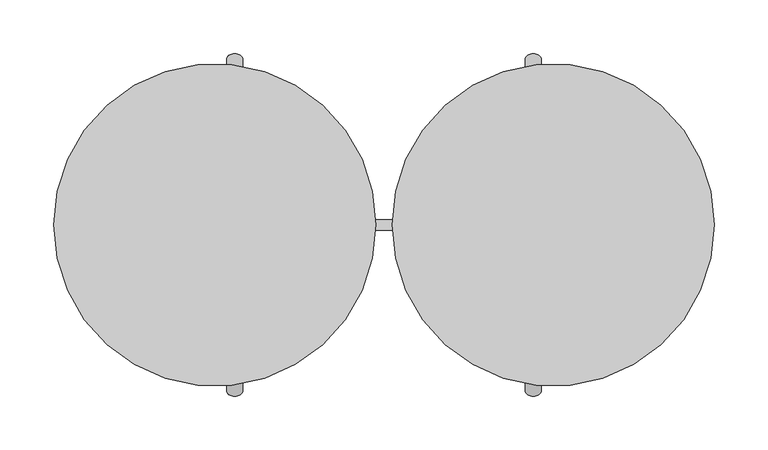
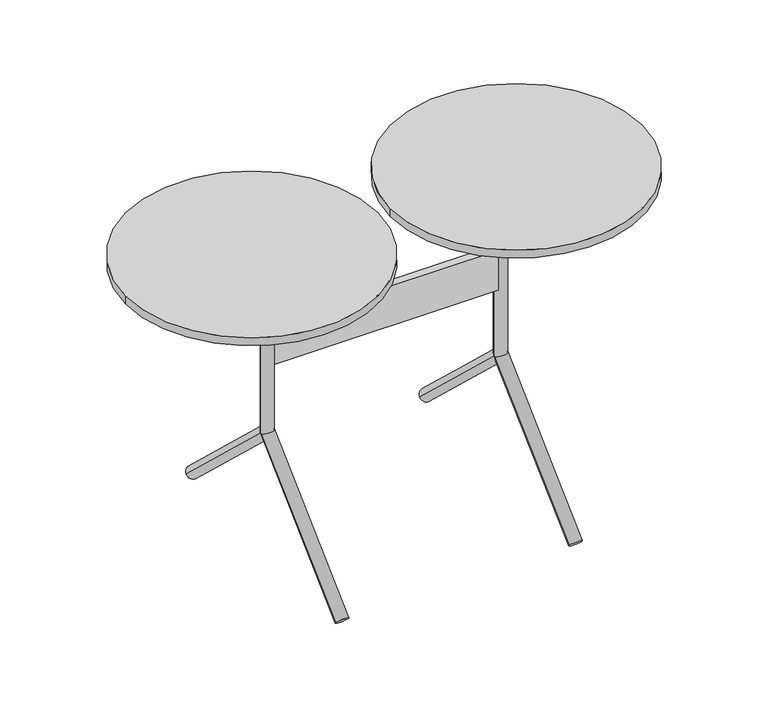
"""IFC4 building model written with IfcOpenShell, lengths in millimetres: furniture geometry, Hjelle - Twin : Hjelle - Twin."""

from ifc_helpers import new_model, si_unit, point, frame, frame_2d, origin, place, context, project, spatial, circle_curve, trimmed, segment, composite_curve, outline, extrude, source, transform, mapped, element, save
from ifc_brep_helpers import plane_surface, cylinder_surface, advanced_brep


def furniture_08e49e87(model_context):
    return source(origin(), model_context, "Body", "SolidModel", [
        advanced_brep(
        [(-146.4999968, 0.0, 369.0000057), (-131.4998949, 0.0, 369.0000057), (-146.4999968, 0.0, 150.0167739), (-131.4998949, 0.0, 150.0167739), (-131.4998949, 0.0, 235.0000091), (-133.4094346, -4.9996948, 235.0000091), (-133.4094346, -4.9996948, 284.9999913), (-131.4998949, 0.0, 284.9999913), (-133.4094346, 4.9996948, 284.9999913), (-133.4094346, 4.9996948, 235.0000091), (133.4094346, -4.9996948, 235.0000091), (133.4094346, -4.9996948, 284.9999913), (133.4094346, 4.9996948, 235.0000091), (131.4998949, 0.0, 235.0000091), (133.4094346, 4.9996948, 284.9999913), (131.4998949, 0.0, 284.9999913), (146.4999968, 0.0, 369.0000057), (131.4998949, 0.0, 369.0000057), (146.4999968, 0.0, 150.0167739), (131.4998949, 0.0, 150.0167739)],
        [
            (0, 1, circle_curve(frame((-138.9999458, 0.0, 369.0000057), z_axis=(0.0, 0.0, 1.0), x_axis=(1.0, 0.0, 0.0)), 7.5000509)),
            (1, 0, circle_curve(frame((-138.9999458, 0.0, 369.0000057), z_axis=(0.0, 0.0, 1.0), x_axis=(1.0, 0.0, 0.0)), 7.5000509)),
            (2, 3, circle_curve(frame((-138.9999458, 0.0, 150.0167739), z_axis=(0.0, 0.0, -1.0), x_axis=(1.0, 0.0, 0.0)), 7.5000509)),
            (3, 2, circle_curve(frame((-138.9999458, 0.0, 150.0167739), z_axis=(0.0, 0.0, -1.0), x_axis=(1.0, 0.0, 0.0)), 7.5000509)),
            (0, 2),
            (3, 4),
            (4, 5, circle_curve(frame((-138.9999458, 0.0, 235.0000091), z_axis=(0.0, 0.0, -1.0), x_axis=(1.0, 0.0, 0.0)), 7.5000509)),
            (5, 6),
            (6, 7, circle_curve(frame((-138.9999458, 0.0, 284.9999913), z_axis=(0.0, 0.0, 1.0), x_axis=(1.0, 0.0, 0.0)), 7.5000509)),
            (7, 1),
            (7, 8, circle_curve(frame((-138.9999458, 0.0, 284.9999913), z_axis=(0.0, 0.0, 1.0), x_axis=(1.0, 0.0, 0.0)), 7.5000509)),
            (8, 9),
            (9, 4, circle_curve(frame((-138.9999458, 0.0, 235.0000091), z_axis=(0.0, 0.0, -1.0), x_axis=(1.0, 0.0, 0.0)), 7.5000509)),
            (5, 10),
            (10, 11),
            (11, 6),
            (9, 12),
            (12, 13, circle_curve(frame((138.9999458, 0.0, 235.0000091), z_axis=(0.0, 0.0, 1.0), x_axis=(-1.0, 0.0, 0.0)), 7.5000509)),
            (13, 10, circle_curve(frame((138.9999458, 0.0, 235.0000091), z_axis=(0.0, 0.0, 1.0), x_axis=(-1.0, 0.0, 0.0)), 7.5000509)),
            (8, 14),
            (14, 12),
            (11, 15, circle_curve(frame((138.9999458, 0.0, 284.9999913), z_axis=(0.0, 0.0, -1.0), x_axis=(-1.0, 0.0, 0.0)), 7.5000509)),
            (15, 14, circle_curve(frame((138.9999458, 0.0, 284.9999913), z_axis=(0.0, 0.0, -1.0), x_axis=(-1.0, 0.0, 0.0)), 7.5000509)),
            (16, 17, circle_curve(frame((138.9999458, 0.0, 369.0000057), z_axis=(0.0, 0.0, 1.0), x_axis=(-1.0, 0.0, 0.0)), 7.5000509)),
            (17, 16, circle_curve(frame((138.9999458, 0.0, 369.0000057), z_axis=(0.0, 0.0, 1.0), x_axis=(-1.0, 0.0, 0.0)), 7.5000509)),
            (18, 19, circle_curve(frame((138.9999458, 0.0, 150.0167739), z_axis=(0.0, 0.0, -1.0), x_axis=(-1.0, 0.0, 0.0)), 7.5000509)),
            (19, 18, circle_curve(frame((138.9999458, 0.0, 150.0167739), z_axis=(0.0, 0.0, -1.0), x_axis=(-1.0, 0.0, 0.0)), 7.5000509)),
            (17, 15),
            (13, 19),
            (18, 16),
        ],
        [
            plane_surface(frame((-131.4998949, 0.0, 369.0000057), z_axis=(0.0, 0.0, 1.0), x_axis=(0.0, 1.0, 0.0))),
            plane_surface(frame((-131.4998949, 0.0, 150.0167739), z_axis=(0.0, 0.0, -1.0), x_axis=(0.0, -1.0, 0.0))),
            cylinder_surface(frame((-138.9999458, 0.0, 150.0167739), z_axis=(0.0, 0.0, 1.0), x_axis=(1.0, 0.0, 0.0)), 7.5000509),
            plane_surface(frame((139.1317654, -4.9996948, 284.9999913), z_axis=(0.0, -1.0, 0.0), x_axis=(-1.0, 0.0, 0.0))),
            plane_surface(frame((139.1317654, -4.9996948, 235.0000091), z_axis=(0.0, 0.0, -1.0), x_axis=(-1.0, 0.0, 0.0))),
            plane_surface(frame((139.1317654, 4.9996948, 235.0000091), z_axis=(0.0, 1.0, 0.0), x_axis=(-1.0, 0.0, 0.0))),
            plane_surface(frame((139.1317654, 4.9996948, 284.9999913), z_axis=(0.0, 0.0, 1.0), x_axis=(-1.0, 0.0, 0.0))),
            plane_surface(frame((131.4998949, 0.0, 369.0000057), z_axis=(0.0, 0.0, 1.0), x_axis=(0.0, -1.0, 0.0))),
            plane_surface(frame((131.4998949, 0.0, 150.0167739), z_axis=(0.0, 0.0, -1.0), x_axis=(0.0, 1.0, 0.0))),
            cylinder_surface(frame((138.9999458, 0.0, 150.0167739), z_axis=(0.0, 0.0, 1.0), x_axis=(-1.0, 0.0, 0.0)), 7.5000509),
        ],
        [
            (0, [[1, 2]]),
            (1, [[3, 4]]),
            (2, [[-1, 5, -4, 6, 7, 8, 9, 10]]),
            (2, [[-2, -10, 11, 12, 13, -6, -3, -5]]),
            (3, [[-8, 14, 15, 16]]),
            (4, [[-7, -13, 17, 18, 19, -14]]),
            (5, [[-12, 20, 21, -17]]),
            (6, [[-9, -16, 22, 23, -20, -11]]),
            (7, [[24, 25]]),
            (8, [[26, 27]]),
            (9, [[-25, 28, -22, -15, -19, 29, -26, 30]]),
            (9, [[-24, -30, -27, -29, -18, -21, -23, -28]]),
        ],
    ),
        extrude(outline(composite_curve([segment(trimmed(circle_curve(frame_2d((0.0, -7.5000509)), 7.5000509), [point((0.0, -15.0001019))], [point((0.0, 0.0))], False, "CARTESIAN"), True, "CONTINUOUS"), segment(trimmed(circle_curve(frame_2d((0.0, -7.5000509)), 7.5000509), [point((0.0, 0.0))], [point((0.0, -15.0001019))], False, "CARTESIAN"), True, "CONTINUOUS")], self_intersect=False)), frame((131.4998949, -154.2687787, 4.7756305), z_axis=(0.0, 0.7277741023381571, 0.6858169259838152), x_axis=(0.0, 0.6858169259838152, -0.7277741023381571)), (0.0, 0.0, 1.0), 211.8859189),
        extrude(outline(composite_curve([segment(trimmed(circle_curve(frame_2d((0.0, -7.5000509)), 7.5000509), [point((0.0, -15.0001019))], [point((0.0, 0.0))], False, "CARTESIAN"), True, "CONTINUOUS"), segment(trimmed(circle_curve(frame_2d((0.0, -7.5000509)), 7.5000509), [point((0.0, 0.0))], [point((0.0, -15.0001019))], False, "CARTESIAN"), True, "CONTINUOUS")], self_intersect=False)), frame((131.4998949, 154.2687787, 4.7756305), z_axis=(0.0, -0.7277741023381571, 0.6858169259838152), x_axis=(0.0, 0.6858169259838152, 0.7277741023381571)), (0.0, 0.0, 1.0), 211.8862546),
        extrude(outline(composite_curve([segment(trimmed(circle_curve(frame_2d((157.5114172, 0.0)), 150.0001465), [point((7.5112708, 0.0))], [point((307.5115637, 0.0))], False, "CARTESIAN"), True, "CONTINUOUS"), segment(trimmed(circle_curve(frame_2d((157.5114172, 0.0)), 150.0001465), [point((307.5115637, 0.0))], [point((7.5112708, 0.0))], False, "CARTESIAN"), True, "CONTINUOUS")], self_intersect=False)), frame((0.0, 0.0, 369.0000057), z_axis=(0.0, 0.0, 1.0), x_axis=(1.0, 0.0, 0.0)), (0.0, 0.0, 1.0), 10.0),
        extrude(outline(composite_curve([segment(trimmed(circle_curve(frame_2d((-157.4884689, 0.0)), 150.0001465), [point((-307.4886154, 0.0))], [point((-7.4883224, 0.0))], False, "CARTESIAN"), True, "CONTINUOUS"), segment(trimmed(circle_curve(frame_2d((-157.4884689, 0.0)), 150.0001465), [point((-7.4883224, 0.0))], [point((-307.4886154, 0.0))], False, "CARTESIAN"), True, "CONTINUOUS")], self_intersect=False)), frame((0.0, 0.0, 369.0000057), z_axis=(0.0, 0.0, 1.0), x_axis=(1.0, 0.0, 0.0)), (0.0, 0.0, 1.0), 10.0),
        extrude(outline(composite_curve([segment(trimmed(circle_curve(frame_2d((0.0, -7.5000509)), 7.5000509), [point((0.0, -15.0001019))], [point((0.0, 0.0))], False, "CARTESIAN"), True, "CONTINUOUS"), segment(trimmed(circle_curve(frame_2d((0.0, -7.5000509)), 7.5000509), [point((0.0, 0.0))], [point((0.0, -15.0001019))], False, "CARTESIAN"), True, "CONTINUOUS")], self_intersect=False)), frame((-131.4998949, -154.2687787, 4.7756305), z_axis=(0.0, 0.7277741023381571, 0.6858169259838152), x_axis=(0.0, -0.6858169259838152, 0.7277741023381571)), (0.0, 0.0, 1.0), 211.8859189),
        extrude(outline(composite_curve([segment(trimmed(circle_curve(frame_2d((0.0, -7.5000509)), 7.5000509), [point((0.0, -15.0001019))], [point((0.0, 0.0))], False, "CARTESIAN"), True, "CONTINUOUS"), segment(trimmed(circle_curve(frame_2d((0.0, -7.5000509)), 7.5000509), [point((0.0, 0.0))], [point((0.0, -15.0001019))], False, "CARTESIAN"), True, "CONTINUOUS")], self_intersect=False)), frame((-131.4998949, 154.2687787, 4.7756305), z_axis=(0.0, -0.7277741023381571, 0.6858169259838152), x_axis=(0.0, -0.6858169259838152, -0.7277741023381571)), (0.0, 0.0, 1.0), 211.8862546),
    ])


if __name__ == "__main__":
    model = new_model("IFC4")
    model_context = context("Model", 3, world=origin())
    ifc_project = project(units=[si_unit("LENGTHUNIT", "METRE", prefix="MILLI")], contexts=[model_context])
    site = spatial("IfcSite", under=ifc_project)
    building = spatial("IfcBuilding", under=site)
    placement = place(None, origin())
    furniture_shape = furniture_08e49e87(model_context)
    element("IfcFurniture", 1, ObjectType="Hjelle - Twin : Hjelle - Twin", at=placement, inside=building, context=model_context, shape_type="MappedRepresentation", body=[
        mapped(furniture_shape, transform((0.0, 0.0, 0.0), x_axis=(1.0, 0.0, 0.0), y_axis=(0.0, 1.0, 0.0), z_axis=(0.0, 0.0, 1.0))),
    ])
    save(model, "model.ifc")
